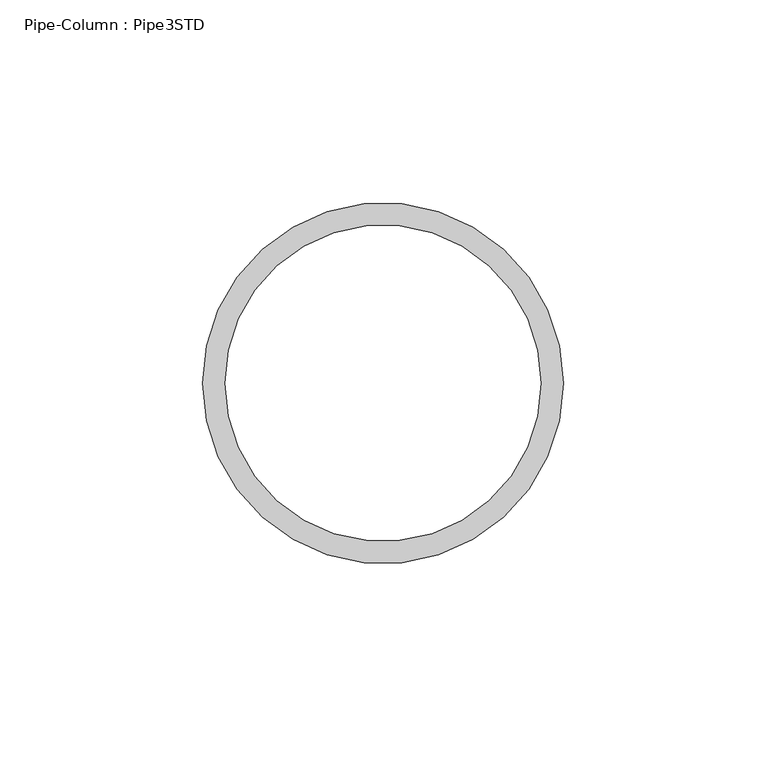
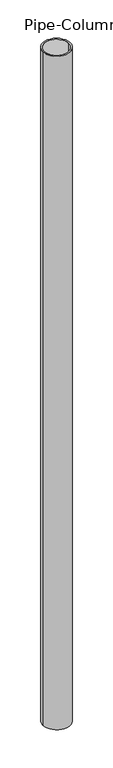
"""IFC4 building model written with IfcOpenShell, lengths in millimetres: column geometry, Pipe-Column : Pipe3STD."""

import ifcopenshell
import ifcopenshell.guid

model = None  # the IFC model being written
_history = None  # IfcOwnerHistory: only IFC2X3 demands one
_inside = {}  # id of a spatial element -> (the spatial element, [elements in it])
_under = {}  # id of a project, library or spatial element -> (it, [spatial elements below it])
_declared = {}  # id of a project -> (the project, [libraries it declares])
_typed = {}  # id of a type object -> (the type object, [elements of that type])
_made_of = {}  # id of a material, layer set ... -> (it, [elements and type objects made of it])


def new_model(schema):
    """Start an empty IFC model of exactly this schema.

    Asked for "IFC4X3", IfcOpenShell would pick the latest addendum, in which some entities
    have other attributes; the version numbers below select the first issue.
    IFC2X3 requires an IfcOwnerHistory on every rooted entity: one is made here for all.
    """
    global model, _history
    if schema == "IFC4X3":
        model = ifcopenshell.file(schema_version=(4, 3, 0, 0))
    else:
        model = ifcopenshell.file(schema=schema)
    _inside.clear()
    _under.clear()
    _declared.clear()
    _typed.clear()
    _made_of.clear()
    _history = None
    if model.schema == "IFC2X3":
        org = make("IfcOrganization", Name="unknown")
        user = make(
            "IfcPersonAndOrganization",
            ThePerson=make("IfcPerson", FamilyName="unknown"),
            TheOrganization=org,
        )
        app = make(
            "IfcApplication",
            ApplicationDeveloper=org,
            Version="unknown",
            ApplicationFullName="unknown",
            ApplicationIdentifier="unknown",
        )
        _history = make(
            "IfcOwnerHistory",
            OwningUser=user,
            OwningApplication=app,
            ChangeAction="ADDED",
            CreationDate=0,
        )
    return model


def make(cls, **values):
    """One entity of the class cls with the attributes given. An attribute that is None is left unset."""
    return model.create_entity(
        cls, **{name: value for name, value in values.items() if value is not None}
    )


def rooted(cls, **values):
    """An entity with a GlobalId (a new one), such as an element, a storey or a relation."""
    return make(cls, GlobalId=ifcopenshell.guid.new(), OwnerHistory=_history, **values)


def si_unit(unit_type, name, prefix=None):
    """IfcSIUnit, for example si_unit("LENGTHUNIT", "METRE", prefix="MILLI")."""
    return make("IfcSIUnit", UnitType=unit_type, Prefix=prefix, Name=name)


def assignment(units):
    """IfcUnitAssignment: the units of a project."""
    return None if units is None else make("IfcUnitAssignment", Units=units)


def point(xyz):
    """IfcCartesianPoint."""
    return None if xyz is None else make("IfcCartesianPoint", Coordinates=xyz)


def direction(xyz):
    """IfcDirection."""
    return None if xyz is None else make("IfcDirection", DirectionRatios=xyz)


def frame(location, z_axis=None, x_axis=None):
    """IfcAxis2Placement3D, a coordinate frame: its origin and axes. An axis left out is left unset."""
    return make(
        "IfcAxis2Placement3D",
        Location=point(location),
        Axis=direction(z_axis),
        RefDirection=direction(x_axis),
    )


def frame_2d(location, x_axis=None):
    """IfcAxis2Placement2D, a coordinate frame in the plane: its origin and x axis."""
    return make(
        "IfcAxis2Placement2D", Location=point(location), RefDirection=direction(x_axis)
    )


def origin():
    """The frame at (0, 0, 0) with its axes left unset."""
    return frame((0.0, 0.0, 0.0))


def origin_2d():
    """The frame at (0, 0) in the plane with its x axis left unset."""
    return frame_2d((0.0, 0.0))


def place(relative_to, where):
    """IfcLocalPlacement: puts the frame where relative to a parent placement (None: the world)."""
    return make(
        "IfcLocalPlacement", PlacementRelTo=relative_to, RelativePlacement=where
    )


def context(
    kind, dimensions, precision=None, world=None, true_north=None, identifier=None
):
    """IfcGeometricRepresentationContext, for example the 3D "Model" context."""
    return make(
        "IfcGeometricRepresentationContext",
        ContextIdentifier=identifier,
        ContextType=kind,
        CoordinateSpaceDimension=dimensions,
        Precision=precision,
        WorldCoordinateSystem=world,
        TrueNorth=true_north,
    )


def project(units=None, contexts=None):
    """IfcProject with its units and contexts."""
    return rooted(
        "IfcProject",
        Name="project",
        RepresentationContexts=contexts,
        UnitsInContext=assignment(units),
    )


def spatial(cls, under=None, at=None, **own):
    """A site, building, storey or space (cls), placed at a placement, below another one or the project."""
    s = rooted(cls, ObjectPlacement=at, **own)
    if under is not None:
        _under.setdefault(under.id(), (under, []))[1].append(s)
    return s


def circle_curve(where, radius):
    """IfcCircle in the frame where."""
    return make("IfcCircle", Position=where, Radius=radius)


def trimmed(basis, trim1, trim2, sense, master):
    """IfcTrimmedCurve: the piece of a basis curve between two trims."""
    return make(
        "IfcTrimmedCurve",
        BasisCurve=basis,
        Trim1=trim1,
        Trim2=trim2,
        SenseAgreement=sense,
        MasterRepresentation=master,
    )


def segment(curve, same_sense, transition):
    """IfcCompositeCurveSegment."""
    return make(
        "IfcCompositeCurveSegment",
        Transition=transition,
        SameSense=same_sense,
        ParentCurve=curve,
    )


def composite_curve(segments, self_intersect=None):
    """IfcCompositeCurve: segments joined end to end."""
    return make("IfcCompositeCurve", Segments=segments, SelfIntersect=self_intersect)


def outline(outer, holes=None, kind="AREA"):
    """IfcArbitraryClosedProfileDef: a profile drawn as a closed curve; with holes, ...WithVoids."""
    if holes is None:
        return make("IfcArbitraryClosedProfileDef", ProfileType=kind, OuterCurve=outer)
    return make(
        "IfcArbitraryProfileDefWithVoids",
        ProfileType=kind,
        OuterCurve=outer,
        InnerCurves=holes,
    )


def extrude(swept, where, along, depth):
    """IfcExtrudedAreaSolid: the profile swept, set in the frame where, extruded along a direction by depth."""
    return make(
        "IfcExtrudedAreaSolid",
        SweptArea=swept,
        Position=where,
        ExtrudedDirection=direction(along),
        Depth=depth,
    )


def shape(context_of_items, identifier, shape_type, items):
    """IfcShapeRepresentation: the items that make up one representation, for example the "Body"."""
    return make(
        "IfcShapeRepresentation",
        ContextOfItems=context_of_items,
        RepresentationIdentifier=identifier,
        RepresentationType=shape_type,
        Items=items,
    )


def source(mapping_origin, context_of_items, identifier, shape_type, items):
    """IfcRepresentationMap: a shape defined once, which mapped items show again and again."""
    return make(
        "IfcRepresentationMap",
        MappingOrigin=mapping_origin,
        MappedRepresentation=shape(context_of_items, identifier, shape_type, items),
    )


def transform(
    local_origin,
    x_axis=None,
    y_axis=None,
    z_axis=None,
    scale=None,
    scale2=None,
    scale3=None,
    uniform=True,
):
    """IfcCartesianTransformationOperator3D, or its non-uniform kind. x_axis, y_axis, z_axis: its Axis1, 2, 3."""
    if uniform:
        return make(
            "IfcCartesianTransformationOperator3D",
            Axis1=direction(x_axis),
            Axis2=direction(y_axis),
            LocalOrigin=point(local_origin),
            Scale=scale,
            Axis3=direction(z_axis),
        )
    return make(
        "IfcCartesianTransformationOperator3DnonUniform",
        Axis1=direction(x_axis),
        Axis2=direction(y_axis),
        LocalOrigin=point(local_origin),
        Scale=scale,
        Axis3=direction(z_axis),
        Scale2=scale2,
        Scale3=scale3,
    )


def mapped(mapping_source, mapping_target):
    """IfcMappedItem: shows the shape of a source again, moved by a transform."""
    return make(
        "IfcMappedItem", MappingSource=mapping_source, MappingTarget=mapping_target
    )


def made_of(thing, what):
    """Note that an element or type object is made of a material, layer set ...; save() writes the relation."""
    if what is not None:
        _made_of.setdefault(what.id(), (what, []))[1].append(thing)
    return thing


def element(
    cls,
    number,
    at=None,
    inside=None,
    cuts=None,
    type_object=None,
    material=None,
    context=None,
    identifier="Body",
    shape_type=None,
    held_by="IfcProductDefinitionShape",
    body=None,
    shapes=None,
    **own,
):
    """One element of the class cls, such as IfcWall. Its Tag is "e" and its number.

    at: its placement. inside: the storey or other place that contains it. cuts: it is an
    opening in that element (IfcRelVoidsElement). A single representation is given by context,
    identifier, shape_type and body (its items); several are given by shapes. held_by: the class
    of the entity that holds the representations. save() writes the other relations.
    """
    e = rooted(cls, Tag="e%d" % number, ObjectPlacement=at, **own)
    if body is not None:
        shapes = [shape(context, identifier, shape_type, body)]
    if shapes is not None:
        e.Representation = make(held_by, Representations=shapes)
    if inside is not None:
        _inside.setdefault(inside.id(), (inside, []))[1].append(e)
    if cuts is not None:
        rooted(
            "IfcRelVoidsElement", RelatingBuildingElement=cuts, RelatedOpeningElement=e
        )
    if type_object is not None:
        _typed.setdefault(type_object.id(), (type_object, []))[1].append(e)
    return made_of(e, material)


def aggregate(whole, parts):
    """IfcRelAggregates: a whole, such as a stair, and the parts it consists of."""
    return rooted("IfcRelAggregates", RelatingObject=whole, RelatedObjects=parts)


def save(model, path):
    """Write the relations noted so far, then the file.

    IfcRelAggregates (storeys below a building ...), IfcRelContainedInSpatialStructure (elements
    in a storey), IfcRelDefinesByType, IfcRelAssociatesMaterial and IfcRelDeclares: one each for
    every whole, place, type object, material and project.
    """
    for whole, parts in _under.values():
        aggregate(whole, parts)
    for where, things in _inside.values():
        rooted(
            "IfcRelContainedInSpatialStructure",
            RelatedElements=things,
            RelatingStructure=where,
        )
    for kind, things in _typed.values():
        rooted("IfcRelDefinesByType", RelatedObjects=things, RelatingType=kind)
    for what, things in _made_of.values():
        rooted("IfcRelAssociatesMaterial", RelatedObjects=things, RelatingMaterial=what)
    for by, libraries in _declared.values():
        rooted("IfcRelDeclares", RelatingContext=by, RelatedDefinitions=libraries)
    model.write(path)


def pipe_column_pipe3std_fa5e6a41(model_context):
    return source(origin(), model_context, "Body", "SweptSolid", [
        extrude(outline(composite_curve([segment(trimmed(circle_curve(origin_2d(), 44.45), [point((-44.45, 0.0))], [point((44.45, 0.0))], False, "CARTESIAN"), True, "CONTINUOUS"), segment(trimmed(circle_curve(origin_2d(), 44.45), [point((44.45, 0.0))], [point((-44.45, 0.0))], False, "CARTESIAN"), True, "CONTINUOUS")], self_intersect=False), holes=[composite_curve([segment(trimmed(circle_curve(origin_2d(), 38.9636), [point((-38.9636, 0.0))], [point((38.9636, 0.0))], True, "CARTESIAN"), True, "CONTINUOUS"), segment(trimmed(circle_curve(origin_2d(), 38.9636), [point((38.9636, 0.0))], [point((-38.9636, 0.0))], True, "CARTESIAN"), True, "CONTINUOUS")], self_intersect=False)]), frame((0.0, 0.0, -1047.75), z_axis=(0.0, 0.0, 1.0), x_axis=(1.0, 0.0, 0.0)), (0.0, 0.0, 1.0), 2313.1859375),
    ])


if __name__ == "__main__":
    model = new_model("IFC4")
    model_context = context("Model", 3, world=origin())
    ifc_project = project(units=[si_unit("LENGTHUNIT", "METRE", prefix="MILLI")], contexts=[model_context])
    site = spatial("IfcSite", under=ifc_project)
    building = spatial("IfcBuilding", under=site)
    placement = place(None, origin())
    pipe_column_pipe3std_shape = pipe_column_pipe3std_fa5e6a41(model_context)
    element("IfcColumn", 1, ObjectType="Pipe-Column : Pipe3STD", at=placement, inside=building, context=model_context, shape_type="MappedRepresentation", body=[
        mapped(pipe_column_pipe3std_shape, transform((0.0, 0.0, 0.0), x_axis=(1.0, 0.0, 0.0), y_axis=(0.0, 1.0, 0.0), z_axis=(0.0, 0.0, 1.0))),
    ])
    save(model, "model.ifc")
